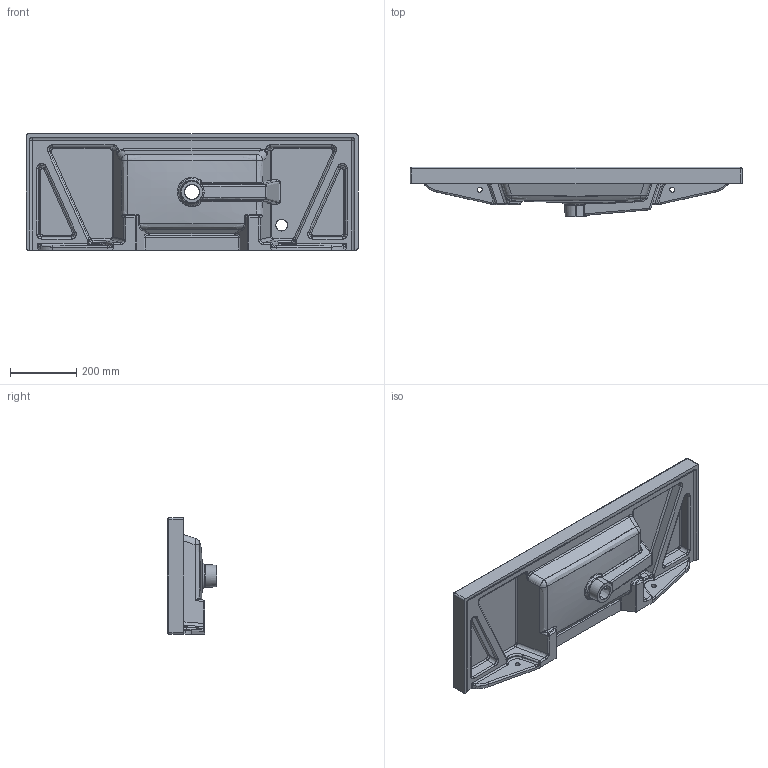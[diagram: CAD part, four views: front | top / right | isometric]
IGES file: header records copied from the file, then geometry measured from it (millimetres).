
Start section: SolidWorks IGES file using analytic representation for surfaces
Global section: file name: K:\lavabi tecla 3D IGS\f. SERIE 35 (4)\SERIE35 35X100 3502011.IGS; native system: SolidWorks 2013; preprocessor: SolidWorks 2013; author: UTENTE 1; date: 140521.170747; units: millimetre
Bounding box: 1000 x 150 x 350 mm (x, y, z)
Surface area: 1216948.4 mm2 (no closed solid volume)
Topology: 0 solids, 0 shells, 368 faces, 4109 edges, 4099 vertices
Faces by surface type: bspline 204, revolution 164
